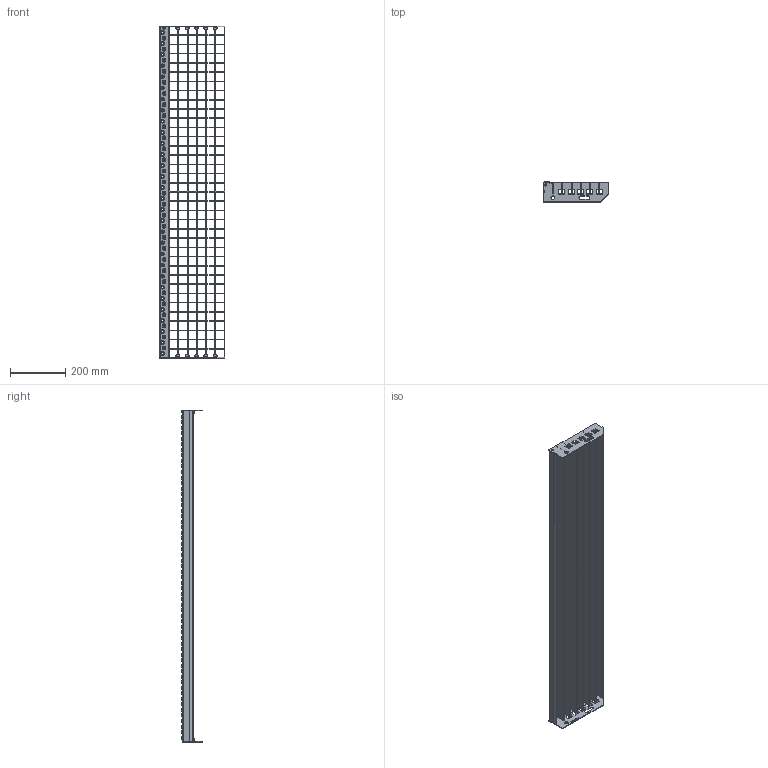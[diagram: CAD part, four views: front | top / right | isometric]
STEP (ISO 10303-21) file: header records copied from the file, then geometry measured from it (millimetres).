
FILE_DESCRIPTION(/* description */ ('','CAx-IF Rec.Pracs.---Representation and Presentation of Product Manufacturing Information (PMI)---3.8---2014-02-18'),/* implementation_level */ '2;1');
FILE_NAME(/* name */ 'C:\Users\phaverkotte\Desktop\Lager STEP\P-Stufen\P 340-33-3\P 340-33-3 1200mm x 240mm.stp',/* time_stamp */ '2018-03-24T10:21:10+01:00',/* author */ ('phaverkotte'),/* organization */ (''),/* preprocessor_version */ 'ST-DEVELOPER v16.13',/* originating_system */ 'Autodesk Inventor 2018',/* authorisation */ '');
FILE_SCHEMA (('AP242_MANAGED_MODEL_BASED_3D_ENGINEERING_MIM_LF { 1 0 10303 442 1 1 4 }'));
Length unit declared in the file: millimetre
Products named in the file (8): Schodišťový stupeň přím
ý lisovaný; Seitenplatte ausgeklinkt links; Seitenplatte 240 ausgeklinkt extern rechts; Schod nášlap; P Rošt schodu; Querstab; P Nosný pás; Hinteres Flach
Assembly tree (46 placements, depth 3):
  Schodišťový stupeň přím
ý lisovaný
    Seitenplatte ausgeklinkt links
    Seitenplatte 240 ausgeklinkt extern rechts
    Schod nášlap
    P Rošt schodu
      Querstab  x35
      P Nosný pás  x6
      Hinteres Flach
Bounding box: 237.98 x 72.75 x 1200 mm (x, y, z)
Volume: 1376708 mm3; surface area: 1111543 mm2
Topology: 45 solids, 45 shells, 1750 faces, 4811 edges, 3168 vertices
Faces by surface type: plane 1378, cone 180, cylinder 112, torus 60, bspline 20
Full cylindrical faces by diameter (mm): 8 x2, 13 x2
Entity records: 27917 total; most frequent: CARTESIAN_POINT 7631, DIRECTION 4064, ORIENTED_EDGE 3768, EDGE_CURVE 1884, AXIS2_PLACEMENT_3D 1376, VERTEX_POINT 1337, LINE 1312, VECTOR 1312
